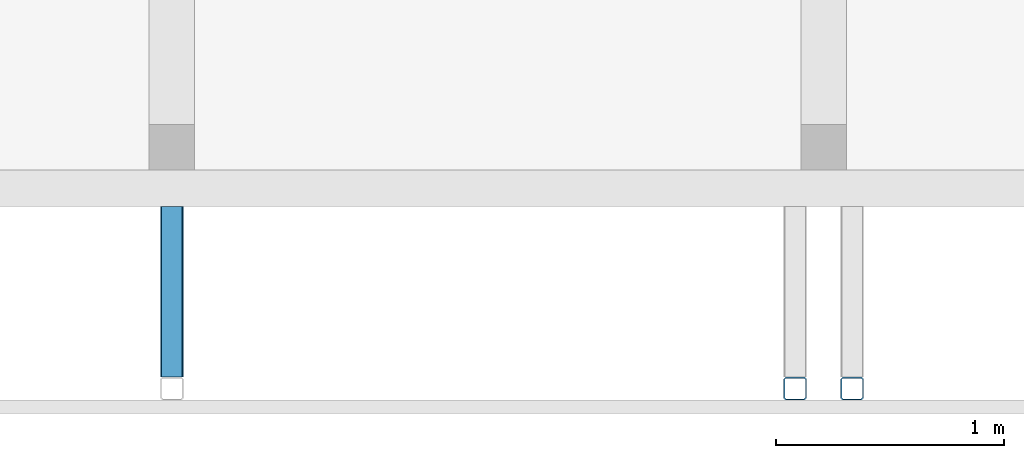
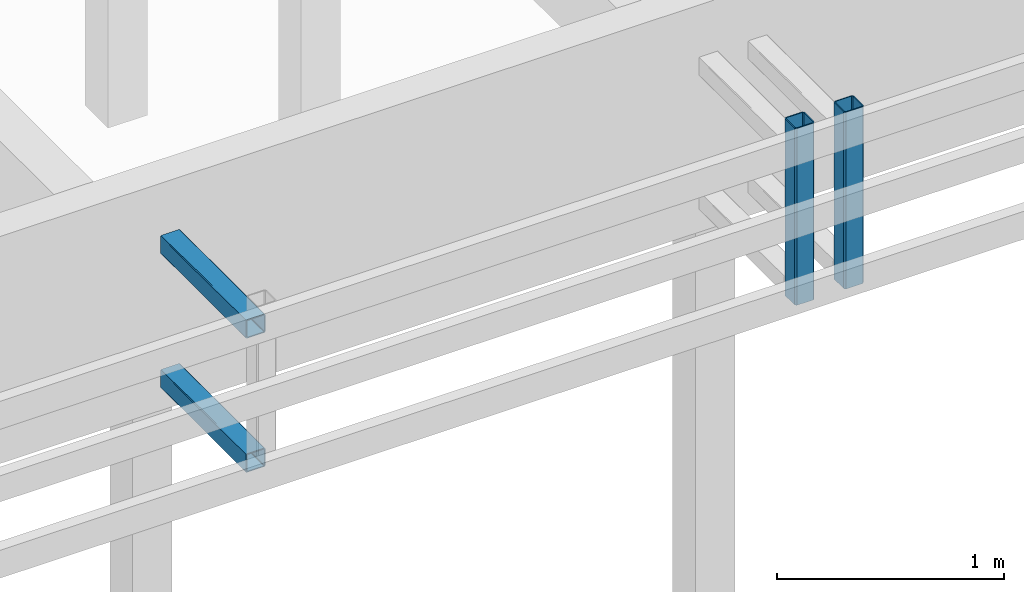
# One storey, part 6 of 44: 4 members.
"""IFC4 building model written with IfcOpenShell, lengths in metres."""

from ifc_helpers import new_model, entity, si_unit, converted_unit, derived_unit, frame, origin, place, context, subcontext, project, spatial, faceted_brep, material, element, save


model = new_model("IFC4")

# Units and contexts
model_context = context("Model", 3, precision=1e-05, world=origin())
plan_context = context("Plan", 2, precision=1e-05, world=origin())
body_context = subcontext(model_context, "Body", "Model", "MODEL_VIEW")
ifc_project = project(units=[si_unit("LENGTHUNIT", "METRE"), si_unit("AREAUNIT", "SQUARE_METRE"), si_unit("VOLUMEUNIT", "CUBIC_METRE"), si_unit("MASSUNIT", "GRAM", prefix="KILO"), converted_unit("PLANEANGLEUNIT", "DEGREE", entity("IfcPlaneAngleMeasure", 0.0174532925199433), si_unit("PLANEANGLEUNIT", "RADIAN"), dimensions=[0, 0, 0, 0, 0, 0, 0]), derived_unit("THERMALTRANSMITTANCEUNIT", [(si_unit("POWERUNIT", "WATT"), 1), (si_unit("THERMODYNAMICTEMPERATUREUNIT", "KELVIN"), -1), (si_unit("LENGTHUNIT", "METRE"), -2)]), derived_unit("VOLUMETRICFLOWRATEUNIT", [(si_unit("LENGTHUNIT", "METRE"), 3), (converted_unit("TIMEUNIT", "hour", entity("IfcTimeMeasure", 3600.0), si_unit("TIMEUNIT", "SECOND"), dimensions=[0, 0, 1, 0, 0, 0, 0]), -1), (si_unit("LENGTHUNIT", "METRE"), -1)])], contexts=[model_context, plan_context])

# Site, building, storey
site_placement = place(None, origin())
site = spatial("IfcSite", under=ifc_project, at=site_placement, Name="Site", CompositionType="ELEMENT")
building_placement = place(site_placement, origin())
building = spatial("IfcBuilding", under=site, at=building_placement, Name="Admin", CompositionType="ELEMENT")
storey_placement = place(building_placement, frame((0.0, 0.0, 3.25)))
storey = spatial("IfcBuildingStorey", under=building, at=storey_placement, Name="01-Etage1", CompositionType="ELEMENT", Elevation=3.25)

# Members
ifc_material_1 = material(Name="S235")
member_1_placement = place(storey_placement, frame((29.7448010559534, 11.0194493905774, 2.82)))
element("IfcMember", 1, at=member_1_placement, inside=storey, material=ifc_material_1, Name="Bandeau R+1", context=body_context, shape_type="Brep", body=[
    faceted_brep([(0.01, 0.095, 0.0), (0.01, 0.095, 0.95), (0.09, 0.095, 0.95), (0.09, 0.095, 0.0), (0.005, 0.09, 0.0), (0.005, 0.09, 0.95), (0.005, 0.01, 0.0), (0.005, 0.01, 0.95), (0.01, 0.005, 0.0), (0.01, 0.005, 0.95), (0.09, 0.005, 0.0), (0.09, 0.005, 0.95), (0.095, 0.01, 0.0), (0.095, 0.01, 0.95), (0.095, 0.09, 0.0), (0.095, 0.09, 0.95), (0.1, 0.0925, 0.0), (0.1, 0.0925, 0.95), (0.0925, 0.1, 0.95), (0.0925, 0.1, 0.0), (0.1, 0.0075, 0.0), (0.1, 0.0075, 0.95), (0.0925, 0.0, 0.0), (0.0925, 0.0, 0.95), (0.0075, 0.0, 0.0), (0.0075, 0.0, 0.95), (0.0, 0.0075, 0.0), (0.0, 0.0075, 0.95), (0.0, 0.0925, 0.0), (0.0, 0.0925, 0.95), (0.0075, 0.1, 0.0), (0.0075, 0.1, 0.95)], [[[0, 1, 2, 3]], [[4, 5, 1, 0]], [[6, 7, 5, 4]], [[8, 9, 7, 6]], [[10, 11, 9, 8]], [[12, 13, 11, 10]], [[14, 15, 13, 12]], [[3, 2, 15, 14]], [[16, 17, 18, 19]], [[20, 21, 17, 16]], [[22, 23, 21, 20]], [[24, 25, 23, 22]], [[26, 27, 25, 24]], [[28, 29, 27, 26]], [[30, 31, 29, 28]], [[19, 18, 31, 30]], [[18, 17, 21, 23, 25, 27, 29, 31], [2, 1, 5, 7, 9, 11, 13, 15]], [[19, 30, 28, 26, 24, 22, 20, 16], [3, 14, 12, 10, 8, 6, 4, 0]]], orient=[[False], [False], [False], [False], [False], [False], [False], [False], [False], [False], [False], [False], [False], [False], [False], [False], [False, False], [False, False]]),
])
ifc_material_2 = material(Name="S235")
member_2_placement = place(storey_placement, frame((29.4948010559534, 11.0194493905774, 2.82)))
element("IfcMember", 2, at=member_2_placement, inside=storey, material=ifc_material_2, Name="Bandeau R+1", context=body_context, shape_type="Brep", body=[
    faceted_brep([(0.01, 0.095, 0.0), (0.01, 0.095, 0.95), (0.09, 0.095, 0.95), (0.09, 0.095, 0.0), (0.005, 0.09, 0.0), (0.005, 0.09, 0.95), (0.005, 0.01, 0.0), (0.005, 0.01, 0.95), (0.01, 0.005, 0.0), (0.01, 0.005, 0.95), (0.09, 0.005, 0.0), (0.09, 0.005, 0.95), (0.095, 0.01, 0.0), (0.095, 0.01, 0.95), (0.095, 0.09, 0.0), (0.095, 0.09, 0.95), (0.1, 0.0925, 0.0), (0.1, 0.0925, 0.95), (0.0925, 0.1, 0.95), (0.0925, 0.1, 0.0), (0.1, 0.0075, 0.0), (0.1, 0.0075, 0.95), (0.0925, 0.0, 0.0), (0.0925, 0.0, 0.95), (0.0075, 0.0, 0.0), (0.0075, 0.0, 0.95), (0.0, 0.0075, 0.0), (0.0, 0.0075, 0.95), (0.0, 0.0925, 0.0), (0.0, 0.0925, 0.95), (0.0075, 0.1, 0.0), (0.0075, 0.1, 0.95)], [[[0, 1, 2, 3]], [[4, 5, 1, 0]], [[6, 7, 5, 4]], [[8, 9, 7, 6]], [[10, 11, 9, 8]], [[12, 13, 11, 10]], [[14, 15, 13, 12]], [[3, 2, 15, 14]], [[16, 17, 18, 19]], [[20, 21, 17, 16]], [[22, 23, 21, 20]], [[24, 25, 23, 22]], [[26, 27, 25, 24]], [[28, 29, 27, 26]], [[30, 31, 29, 28]], [[19, 18, 31, 30]], [[18, 17, 21, 23, 25, 27, 29, 31], [2, 1, 5, 7, 9, 11, 13, 15]], [[19, 30, 28, 26, 24, 22, 20, 16], [3, 14, 12, 10, 8, 6, 4, 0]]], orient=[[False], [False], [False], [False], [False], [False], [False], [False], [False], [False], [False], [False], [False], [False], [False], [False], [False, False], [False, False]]),
])
ifc_material_3 = material(Name="S235")
member_3_placement = place(storey_placement, frame((26.7598010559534, 11.1194493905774, 3.54)))
element("IfcMember", 3, at=member_3_placement, inside=storey, material=ifc_material_3, Name="Bandeau R+1", context=body_context, shape_type="Brep", body=[
    faceted_brep([(0.095, 0.0, 0.09), (0.095, 0.0, 0.01), (0.0950000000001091, 0.749999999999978, 0.01), (0.0950000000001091, 0.749999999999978, 0.09), (0.0949240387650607, 0.0, 0.0908682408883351), (0.0949240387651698, 0.749999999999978, 0.0908682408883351), (0.0946984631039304, 0.0, 0.0917101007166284), (0.0946984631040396, 0.749999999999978, 0.0917101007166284), (0.0943301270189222, 0.0, 0.0925), (0.0943301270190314, 0.749999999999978, 0.0925), (0.0938302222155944, 0.0, 0.0932139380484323), (0.0938302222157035, 0.749999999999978, 0.0932139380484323), (0.0932139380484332, 1.81898940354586e-15, 0.0938302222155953), (0.0932139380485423, 0.74999999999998, 0.0938302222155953), (0.0925, 1.81898940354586e-15, 0.0943301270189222), (0.0925000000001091, 0.74999999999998, 0.0943301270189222), (0.0917101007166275, 1.81898940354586e-15, 0.0946984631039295), (0.0917101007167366, 0.74999999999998, 0.0946984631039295), (0.090868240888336, 1.81898940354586e-15, 0.0949240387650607), (0.0908682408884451, 0.74999999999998, 0.0949240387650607), (0.09, 1.81898940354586e-15, 0.095), (0.0900000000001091, 0.74999999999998, 0.095), (0.01, 1.2732925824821e-14, 0.095), (0.0100000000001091, 0.749999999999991, 0.095), (0.009131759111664, 1.2732925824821e-14, 0.0949240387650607), (0.00913175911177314, 0.749999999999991, 0.0949240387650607), (0.00828989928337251, 1.2732925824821e-14, 0.0946984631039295), (0.00828989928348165, 0.749999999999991, 0.0946984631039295), (0.0075, 1.2732925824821e-14, 0.0943301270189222), (0.00750000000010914, 0.749999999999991, 0.0943301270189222), (0.00678606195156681, 1.2732925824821e-14, 0.0938302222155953), (0.00678606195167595, 0.749999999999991, 0.0938302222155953), (0.0061697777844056, 1.45519152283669e-14, 0.0932139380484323), (0.00616977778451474, 0.749999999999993, 0.0932139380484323), (0.00566987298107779, 1.45519152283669e-14, 0.0925), (0.00566987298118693, 0.749999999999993, 0.0925), (0.00530153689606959, 1.45519152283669e-14, 0.0917101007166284), (0.00530153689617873, 0.749999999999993, 0.0917101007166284), (0.00507596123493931, 1.45519152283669e-14, 0.0908682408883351), (0.00507596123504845, 0.749999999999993, 0.0908682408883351), (0.005, 1.45519152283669e-14, 0.09), (0.00500000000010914, 0.749999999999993, 0.09), (0.005, 1.45519152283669e-14, 0.01), (0.00500000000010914, 0.749999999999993, 0.01), (0.00507596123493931, 1.45519152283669e-14, 0.00913175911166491), (0.00507596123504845, 0.749999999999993, 0.00913175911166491), (0.00530153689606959, 1.45519152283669e-14, 0.0082898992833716), (0.00530153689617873, 0.749999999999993, 0.0082898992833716), (0.00566987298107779, 1.45519152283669e-14, 0.0075), (0.00566987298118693, 0.749999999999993, 0.0075), (0.0061697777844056, 1.45519152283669e-14, 0.00678606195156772), (0.00616977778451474, 0.749999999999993, 0.00678606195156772), (0.00678606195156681, 1.2732925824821e-14, 0.00616977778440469), (0.00678606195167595, 0.749999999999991, 0.00616977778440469), (0.0075, 1.2732925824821e-14, 0.00566987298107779), (0.00750000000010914, 0.749999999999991, 0.00566987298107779), (0.00828989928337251, 1.2732925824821e-14, 0.0053015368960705), (0.00828989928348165, 0.749999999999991, 0.0053015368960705), (0.009131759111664, 1.2732925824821e-14, 0.00507596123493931), (0.00913175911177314, 0.749999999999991, 0.00507596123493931), (0.01, 1.2732925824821e-14, 0.005), (0.0100000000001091, 0.749999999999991, 0.005), (0.09, 1.81898940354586e-15, 0.005), (0.0900000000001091, 0.74999999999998, 0.005), (0.090868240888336, 1.81898940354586e-15, 0.00507596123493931), (0.0908682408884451, 0.74999999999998, 0.00507596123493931), (0.0917101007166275, 1.81898940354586e-15, 0.0053015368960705), (0.0917101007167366, 0.74999999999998, 0.0053015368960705), (0.0925, 1.81898940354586e-15, 0.00566987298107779), (0.0925000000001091, 0.74999999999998, 0.00566987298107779), (0.0932139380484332, 1.81898940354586e-15, 0.00616977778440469), (0.0932139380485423, 0.74999999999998, 0.00616977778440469), (0.0938302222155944, 0.0, 0.00678606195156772), (0.0938302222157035, 0.749999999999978, 0.00678606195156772), (0.0943301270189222, 0.0, 0.0075), (0.0943301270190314, 0.749999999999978, 0.0075), (0.0946984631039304, 0.0, 0.0082898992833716), (0.0946984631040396, 0.749999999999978, 0.0082898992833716), (0.0949240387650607, 0.0, 0.00913175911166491), (0.0949240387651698, 0.749999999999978, 0.00913175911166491), (0.0075, 1.2732925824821e-14, 0.1), (0.00619763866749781, 1.45519152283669e-14, 0.0998860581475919), (0.00619763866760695, 0.749999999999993, 0.0998860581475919), (0.00750000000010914, 0.749999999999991, 0.1), (0.0925, 1.81898940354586e-15, 0.1), (0.0925000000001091, 0.74999999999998, 0.1), (0.0938023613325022, 0.0, 0.0998860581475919), (0.0938023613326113, 0.749999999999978, 0.0998860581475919), (0.0950651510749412, 0.0, 0.0995476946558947), (0.0950651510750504, 0.749999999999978, 0.0995476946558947), (0.09625, 0.0, 0.0989951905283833), (0.0962500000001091, 0.749999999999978, 0.0989951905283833), (0.097320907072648, 0.0, 0.0982453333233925), (0.0973209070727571, 0.749999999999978, 0.0982453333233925), (0.0982453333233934, 0.0, 0.0973209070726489), (0.0982453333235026, 0.749999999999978, 0.0973209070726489), (0.0989951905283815, 0.0, 0.09625), (0.0989951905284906, 0.749999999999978, 0.09625), (0.0995476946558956, 0.0, 0.0950651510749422), (0.0995476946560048, 0.749999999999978, 0.0950651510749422), (0.0998860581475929, 0.0, 0.0938023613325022), (0.099886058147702, 0.749999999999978, 0.0938023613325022), (0.1, 0.0, 0.0925), (0.100000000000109, 0.749999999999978, 0.0925), (0.0998860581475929, 0.0, 0.00619763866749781), (0.1, 0.0, 0.0075), (0.100000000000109, 0.749999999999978, 0.0075), (0.099886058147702, 0.749999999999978, 0.00619763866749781), (0.0995476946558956, 0.0, 0.00493484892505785), (0.0995476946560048, 0.749999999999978, 0.00493484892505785), (0.0989951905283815, 0.0, 0.00375), (0.0989951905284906, 0.749999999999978, 0.00375), (0.0982453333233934, 0.0, 0.00267909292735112), (0.0982453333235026, 0.749999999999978, 0.00267909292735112), (0.097320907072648, 0.0, 0.00175466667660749), (0.0973209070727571, 0.749999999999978, 0.00175466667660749), (0.09625, 0.0, 0.00100480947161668), (0.0962500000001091, 0.749999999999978, 0.00100480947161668), (0.0950651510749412, 0.0, 0.000452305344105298), (0.0950651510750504, 0.749999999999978, 0.000452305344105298), (0.0938023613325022, 0.0, 0.000113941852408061), (0.0938023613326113, 0.749999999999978, 0.000113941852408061), (0.0925, 1.81898940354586e-15, 0.0), (0.0925000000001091, 0.74999999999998, 0.0), (0.0075, 1.2732925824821e-14, 0.0), (0.00750000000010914, 0.749999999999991, 0.0), (0.00619763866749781, 1.45519152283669e-14, 0.000113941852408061), (0.00619763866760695, 0.749999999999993, 0.000113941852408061), (0.00493484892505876, 1.45519152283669e-14, 0.000452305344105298), (0.0049348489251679, 0.749999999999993, 0.000452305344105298), (0.00375, 1.45519152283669e-14, 0.00100480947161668), (0.00375000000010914, 0.749999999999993, 0.00100480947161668), (0.00267909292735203, 1.45519152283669e-14, 0.00175466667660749), (0.00267909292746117, 0.749999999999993, 0.00175466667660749), (0.00175466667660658, 1.45519152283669e-14, 0.00267909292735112), (0.00175466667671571, 0.749999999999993, 0.00267909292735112), (0.0010048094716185, 1.45519152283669e-14, 0.00375), (0.00100480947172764, 0.749999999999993, 0.00375), (0.000452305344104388, 1.45519152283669e-14, 0.00493484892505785), (0.000452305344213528, 0.749999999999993, 0.00493484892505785), (0.000113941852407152, 1.45519152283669e-14, 0.00619763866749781), (0.000113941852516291, 0.749999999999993, 0.00619763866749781), (0.0, 0.0, 0.0075), (1.09139364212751e-13, 0.749999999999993, 0.0075), (0.000113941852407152, 1.45519152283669e-14, 0.0938023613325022), (0.0, -1.81898940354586e-15, 0.0925), (1.09139364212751e-13, 0.749999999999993, 0.0925), (0.000113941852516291, 0.749999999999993, 0.0938023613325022), (0.000452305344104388, 1.45519152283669e-14, 0.0950651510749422), (0.000452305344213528, 0.749999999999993, 0.0950651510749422), (0.0010048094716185, 1.45519152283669e-14, 0.09625), (0.00100480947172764, 0.749999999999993, 0.09625), (0.00175466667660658, 1.45519152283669e-14, 0.0973209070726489), (0.00175466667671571, 0.749999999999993, 0.0973209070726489), (0.00267909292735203, 1.45519152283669e-14, 0.0982453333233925), (0.00267909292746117, 0.749999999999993, 0.0982453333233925), (0.00375, 1.45519152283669e-14, 0.0989951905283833), (0.00375000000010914, 0.749999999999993, 0.0989951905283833), (0.00493484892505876, 1.45519152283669e-14, 0.0995476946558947), (0.0049348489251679, 0.749999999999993, 0.0995476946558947)], [[[0, 1, 2, 3]], [[4, 0, 3, 5]], [[6, 4, 5, 7]], [[8, 6, 7, 9]], [[10, 8, 9, 11]], [[12, 10, 11, 13]], [[14, 12, 13, 15]], [[16, 14, 15, 17]], [[18, 16, 17, 19]], [[20, 18, 19, 21]], [[22, 20, 21, 23]], [[24, 22, 23, 25]], [[26, 24, 25, 27]], [[28, 26, 27, 29]], [[30, 28, 29, 31]], [[32, 30, 31, 33]], [[34, 32, 33, 35]], [[36, 34, 35, 37]], [[38, 36, 37, 39]], [[40, 38, 39, 41]], [[42, 40, 41, 43]], [[44, 42, 43, 45]], [[46, 44, 45, 47]], [[48, 46, 47, 49]], [[50, 48, 49, 51]], [[52, 50, 51, 53]], [[54, 52, 53, 55]], [[56, 54, 55, 57]], [[58, 56, 57, 59]], [[60, 58, 59, 61]], [[62, 60, 61, 63]], [[64, 62, 63, 65]], [[66, 64, 65, 67]], [[68, 66, 67, 69]], [[70, 68, 69, 71]], [[72, 70, 71, 73]], [[74, 72, 73, 75]], [[76, 74, 75, 77]], [[78, 76, 77, 79]], [[1, 78, 79, 2]], [[80, 81, 82, 83]], [[84, 80, 83, 85]], [[86, 84, 85, 87]], [[88, 86, 87, 89]], [[90, 88, 89, 91]], [[92, 90, 91, 93]], [[94, 92, 93, 95]], [[96, 94, 95, 97]], [[98, 96, 97, 99]], [[100, 98, 99, 101]], [[102, 100, 101, 103]], [[104, 105, 106, 107]], [[108, 104, 107, 109]], [[110, 108, 109, 111]], [[112, 110, 111, 113]], [[114, 112, 113, 115]], [[116, 114, 115, 117]], [[118, 116, 117, 119]], [[120, 118, 119, 121]], [[122, 120, 121, 123]], [[124, 122, 123, 125]], [[126, 124, 125, 127]], [[128, 126, 127, 129]], [[130, 128, 129, 131]], [[132, 130, 131, 133]], [[134, 132, 133, 135]], [[136, 134, 135, 137]], [[138, 136, 137, 139]], [[140, 138, 139, 141]], [[142, 140, 141, 143]], [[144, 145, 146, 147]], [[148, 144, 147, 149]], [[150, 148, 149, 151]], [[152, 150, 151, 153]], [[154, 152, 153, 155]], [[156, 154, 155, 157]], [[158, 156, 157, 159]], [[81, 158, 159, 82]], [[146, 143, 141, 139, 137, 135, 133, 131, 129, 127, 125, 123, 121, 119, 117, 115, 113, 111, 109, 107, 106, 103, 101, 99, 97, 95, 93, 91, 89, 87, 85, 83, 82, 159, 157, 155, 153, 151, 149, 147], [2, 79, 77, 75, 73, 71, 69, 67, 65, 63, 61, 59, 57, 55, 53, 51, 49, 47, 45, 43, 41, 39, 37, 35, 33, 31, 29, 27, 25, 23, 21, 19, 17, 15, 13, 11, 9, 7, 5, 3]], [[103, 106, 105, 102]], [[102, 105, 104, 108, 110, 112, 114, 116, 118, 120, 122, 124, 126, 128, 130, 132, 134, 136, 138, 140, 142, 145, 144, 148, 150, 152, 154, 156, 158, 81, 80, 84, 86, 88, 90, 92, 94, 96, 98, 100], [1, 0, 4, 6, 8, 10, 12, 14, 16, 18, 20, 22, 24, 26, 28, 30, 32, 34, 36, 38, 40, 42, 44, 46, 48, 50, 52, 54, 56, 58, 60, 62, 64, 66, 68, 70, 72, 74, 76, 78]], [[145, 142, 143, 146]]], orient=[[False], [False], [False], [False], [False], [False], [False], [False], [False], [False], [False], [False], [False], [False], [False], [False], [False], [False], [False], [False], [False], [False], [False], [False], [False], [False], [False], [False], [False], [False], [False], [False], [False], [False], [False], [False], [False], [False], [False], [False], [False], [False], [False], [False], [False], [False], [False], [False], [False], [False], [False], [False], [False], [False], [False], [False], [False], [False], [False], [False], [False], [False], [False], [False], [False], [False], [False], [False], [False], [False], [False], [False], [False], [False], [False], [False], [False], [False], [False, False], [False], [False, False], [False]]),
])
ifc_material_4 = material(Name="S235")
member_4_placement = place(storey_placement, frame((26.7598010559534, 11.1194493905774, 2.82)))
element("IfcMember", 4, at=member_4_placement, inside=storey, material=ifc_material_4, Name="Bandeau R+1", context=body_context, shape_type="Brep", body=[
    faceted_brep([(0.095, 0.0, 0.09), (0.095, 0.0, 0.01), (0.0950000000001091, 0.749999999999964, 0.01), (0.0950000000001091, 0.749999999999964, 0.09), (0.0949240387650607, 0.0, 0.0908682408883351), (0.0949240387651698, 0.749999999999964, 0.0908682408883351), (0.0946984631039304, 0.0, 0.0917101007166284), (0.0946984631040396, 0.749999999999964, 0.0917101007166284), (0.0943301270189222, 0.0, 0.0925), (0.0943301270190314, 0.749999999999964, 0.0925), (0.0938302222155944, 0.0, 0.0932139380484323), (0.0938302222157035, 0.749999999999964, 0.0932139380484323), (0.0932139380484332, 1.81898940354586e-15, 0.0938302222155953), (0.0932139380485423, 0.749999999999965, 0.0938302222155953), (0.0925, 1.81898940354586e-15, 0.0943301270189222), (0.0925000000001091, 0.749999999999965, 0.0943301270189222), (0.0917101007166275, 1.81898940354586e-15, 0.0946984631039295), (0.0917101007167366, 0.749999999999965, 0.0946984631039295), (0.090868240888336, 1.81898940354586e-15, 0.0949240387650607), (0.0908682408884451, 0.749999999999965, 0.0949240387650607), (0.09, 1.81898940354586e-15, 0.095), (0.0900000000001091, 0.749999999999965, 0.095), (0.01, 1.2732925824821e-14, 0.095), (0.0100000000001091, 0.749999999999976, 0.095), (0.009131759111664, 1.2732925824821e-14, 0.0949240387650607), (0.00913175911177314, 0.749999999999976, 0.0949240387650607), (0.00828989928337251, 1.2732925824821e-14, 0.0946984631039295), (0.00828989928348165, 0.749999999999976, 0.0946984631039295), (0.0075, 1.2732925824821e-14, 0.0943301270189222), (0.00750000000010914, 0.749999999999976, 0.0943301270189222), (0.00678606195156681, 1.2732925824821e-14, 0.0938302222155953), (0.00678606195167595, 0.749999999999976, 0.0938302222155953), (0.0061697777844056, 1.45519152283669e-14, 0.0932139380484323), (0.00616977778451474, 0.749999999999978, 0.0932139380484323), (0.00566987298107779, 1.45519152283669e-14, 0.0925), (0.00566987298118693, 0.749999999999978, 0.0925), (0.00530153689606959, 1.45519152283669e-14, 0.0917101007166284), (0.00530153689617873, 0.749999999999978, 0.0917101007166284), (0.00507596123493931, 1.45519152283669e-14, 0.0908682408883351), (0.00507596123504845, 0.749999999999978, 0.0908682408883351), (0.005, 1.45519152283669e-14, 0.09), (0.00500000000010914, 0.749999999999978, 0.09), (0.005, 1.45519152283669e-14, 0.01), (0.00500000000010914, 0.749999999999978, 0.01), (0.00507596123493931, 1.45519152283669e-14, 0.00913175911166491), (0.00507596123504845, 0.749999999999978, 0.00913175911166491), (0.00530153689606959, 1.45519152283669e-14, 0.0082898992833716), (0.00530153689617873, 0.749999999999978, 0.0082898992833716), (0.00566987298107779, 1.45519152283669e-14, 0.0075), (0.00566987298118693, 0.749999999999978, 0.0075), (0.0061697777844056, 1.45519152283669e-14, 0.00678606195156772), (0.00616977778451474, 0.749999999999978, 0.00678606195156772), (0.00678606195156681, 1.2732925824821e-14, 0.00616977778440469), (0.00678606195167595, 0.749999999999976, 0.00616977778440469), (0.0075, 1.2732925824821e-14, 0.00566987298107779), (0.00750000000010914, 0.749999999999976, 0.00566987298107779), (0.00828989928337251, 1.2732925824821e-14, 0.0053015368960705), (0.00828989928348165, 0.749999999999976, 0.0053015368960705), (0.009131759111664, 1.2732925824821e-14, 0.00507596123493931), (0.00913175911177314, 0.749999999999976, 0.00507596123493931), (0.01, 1.2732925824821e-14, 0.005), (0.0100000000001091, 0.749999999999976, 0.005), (0.09, 1.81898940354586e-15, 0.005), (0.0900000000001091, 0.749999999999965, 0.005), (0.090868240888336, 1.81898940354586e-15, 0.00507596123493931), (0.0908682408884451, 0.749999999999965, 0.00507596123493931), (0.0917101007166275, 1.81898940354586e-15, 0.0053015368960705), (0.0917101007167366, 0.749999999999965, 0.0053015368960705), (0.0925, 1.81898940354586e-15, 0.00566987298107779), (0.0925000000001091, 0.749999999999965, 0.00566987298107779), (0.0932139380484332, 1.81898940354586e-15, 0.00616977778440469), (0.0932139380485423, 0.749999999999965, 0.00616977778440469), (0.0938302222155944, 0.0, 0.00678606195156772), (0.0938302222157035, 0.749999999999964, 0.00678606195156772), (0.0943301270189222, 0.0, 0.0075), (0.0943301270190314, 0.749999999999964, 0.0075), (0.0946984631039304, 0.0, 0.0082898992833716), (0.0946984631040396, 0.749999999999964, 0.0082898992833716), (0.0949240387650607, 0.0, 0.00913175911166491), (0.0949240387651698, 0.749999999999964, 0.00913175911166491), (0.0075, 1.2732925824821e-14, 0.1), (0.00619763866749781, 1.45519152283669e-14, 0.0998860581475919), (0.00619763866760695, 0.749999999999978, 0.0998860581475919), (0.00750000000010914, 0.749999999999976, 0.1), (0.0925, 1.81898940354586e-15, 0.1), (0.0925000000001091, 0.749999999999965, 0.1), (0.0938023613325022, 0.0, 0.0998860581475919), (0.0938023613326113, 0.749999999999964, 0.0998860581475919), (0.0950651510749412, 0.0, 0.0995476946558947), (0.0950651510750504, 0.749999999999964, 0.0995476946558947), (0.09625, 0.0, 0.0989951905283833), (0.0962500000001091, 0.749999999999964, 0.0989951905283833), (0.097320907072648, 0.0, 0.0982453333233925), (0.0973209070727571, 0.749999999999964, 0.0982453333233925), (0.0982453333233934, 0.0, 0.0973209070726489), (0.0982453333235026, 0.749999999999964, 0.0973209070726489), (0.0989951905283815, 0.0, 0.09625), (0.0989951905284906, 0.749999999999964, 0.09625), (0.0995476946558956, 0.0, 0.0950651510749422), (0.0995476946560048, 0.749999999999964, 0.0950651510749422), (0.0998860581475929, 0.0, 0.0938023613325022), (0.099886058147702, 0.749999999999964, 0.0938023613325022), (0.1, 0.0, 0.0925), (0.100000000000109, 0.749999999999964, 0.0925), (0.0998860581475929, 0.0, 0.00619763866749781), (0.1, 0.0, 0.0075), (0.100000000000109, 0.749999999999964, 0.0075), (0.099886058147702, 0.749999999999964, 0.00619763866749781), (0.0995476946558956, 0.0, 0.00493484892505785), (0.0995476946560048, 0.749999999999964, 0.00493484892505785), (0.0989951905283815, 0.0, 0.00375), (0.0989951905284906, 0.749999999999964, 0.00375), (0.0982453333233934, 0.0, 0.00267909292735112), (0.0982453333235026, 0.749999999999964, 0.00267909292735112), (0.097320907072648, 0.0, 0.00175466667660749), (0.0973209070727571, 0.749999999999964, 0.00175466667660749), (0.09625, 0.0, 0.00100480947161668), (0.0962500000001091, 0.749999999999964, 0.00100480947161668), (0.0950651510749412, 0.0, 0.000452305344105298), (0.0950651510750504, 0.749999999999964, 0.000452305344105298), (0.0938023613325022, 0.0, 0.000113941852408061), (0.0938023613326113, 0.749999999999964, 0.000113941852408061), (0.0925, 1.81898940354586e-15, 0.0), (0.0925000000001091, 0.749999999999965, 0.0), (0.0075, 1.2732925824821e-14, 0.0), (0.00750000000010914, 0.749999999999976, 0.0), (0.00619763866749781, 1.45519152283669e-14, 0.000113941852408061), (0.00619763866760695, 0.749999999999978, 0.000113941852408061), (0.00493484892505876, 1.45519152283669e-14, 0.000452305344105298), (0.0049348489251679, 0.749999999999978, 0.000452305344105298), (0.00375, 1.45519152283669e-14, 0.00100480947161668), (0.00375000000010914, 0.749999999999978, 0.00100480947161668), (0.00267909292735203, 1.45519152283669e-14, 0.00175466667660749), (0.00267909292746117, 0.749999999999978, 0.00175466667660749), (0.00175466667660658, 1.45519152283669e-14, 0.00267909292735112), (0.00175466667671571, 0.749999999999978, 0.00267909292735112), (0.0010048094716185, 1.45519152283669e-14, 0.00375), (0.00100480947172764, 0.749999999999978, 0.00375), (0.000452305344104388, 1.45519152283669e-14, 0.00493484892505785), (0.000452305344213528, 0.749999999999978, 0.00493484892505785), (0.000113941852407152, 1.45519152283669e-14, 0.00619763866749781), (0.000113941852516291, 0.749999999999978, 0.00619763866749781), (0.0, 0.0, 0.0075), (1.09139364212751e-13, 0.749999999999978, 0.0075), (0.000113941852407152, 1.45519152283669e-14, 0.0938023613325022), (0.0, 0.0, 0.0925), (1.09139364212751e-13, 0.749999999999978, 0.0925), (0.000113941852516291, 0.749999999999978, 0.0938023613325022), (0.000452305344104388, 1.45519152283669e-14, 0.0950651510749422), (0.000452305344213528, 0.749999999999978, 0.0950651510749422), (0.0010048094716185, 1.45519152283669e-14, 0.09625), (0.00100480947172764, 0.749999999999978, 0.09625), (0.00175466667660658, 1.45519152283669e-14, 0.0973209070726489), (0.00175466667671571, 0.749999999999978, 0.0973209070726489), (0.00267909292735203, 1.45519152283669e-14, 0.0982453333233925), (0.00267909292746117, 0.749999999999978, 0.0982453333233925), (0.00375, 1.45519152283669e-14, 0.0989951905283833), (0.00375000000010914, 0.749999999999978, 0.0989951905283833), (0.00493484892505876, 1.45519152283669e-14, 0.0995476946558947), (0.0049348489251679, 0.749999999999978, 0.0995476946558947)], [[[0, 1, 2, 3]], [[4, 0, 3, 5]], [[6, 4, 5, 7]], [[8, 6, 7, 9]], [[10, 8, 9, 11]], [[12, 10, 11, 13]], [[14, 12, 13, 15]], [[16, 14, 15, 17]], [[18, 16, 17, 19]], [[20, 18, 19, 21]], [[22, 20, 21, 23]], [[24, 22, 23, 25]], [[26, 24, 25, 27]], [[28, 26, 27, 29]], [[30, 28, 29, 31]], [[32, 30, 31, 33]], [[34, 32, 33, 35]], [[36, 34, 35, 37]], [[38, 36, 37, 39]], [[40, 38, 39, 41]], [[42, 40, 41, 43]], [[44, 42, 43, 45]], [[46, 44, 45, 47]], [[48, 46, 47, 49]], [[50, 48, 49, 51]], [[52, 50, 51, 53]], [[54, 52, 53, 55]], [[56, 54, 55, 57]], [[58, 56, 57, 59]], [[60, 58, 59, 61]], [[62, 60, 61, 63]], [[64, 62, 63, 65]], [[66, 64, 65, 67]], [[68, 66, 67, 69]], [[70, 68, 69, 71]], [[72, 70, 71, 73]], [[74, 72, 73, 75]], [[76, 74, 75, 77]], [[78, 76, 77, 79]], [[1, 78, 79, 2]], [[80, 81, 82, 83]], [[84, 80, 83, 85]], [[86, 84, 85, 87]], [[88, 86, 87, 89]], [[90, 88, 89, 91]], [[92, 90, 91, 93]], [[94, 92, 93, 95]], [[96, 94, 95, 97]], [[98, 96, 97, 99]], [[100, 98, 99, 101]], [[102, 100, 101, 103]], [[104, 105, 106, 107]], [[108, 104, 107, 109]], [[110, 108, 109, 111]], [[112, 110, 111, 113]], [[114, 112, 113, 115]], [[116, 114, 115, 117]], [[118, 116, 117, 119]], [[120, 118, 119, 121]], [[122, 120, 121, 123]], [[124, 122, 123, 125]], [[126, 124, 125, 127]], [[128, 126, 127, 129]], [[130, 128, 129, 131]], [[132, 130, 131, 133]], [[134, 132, 133, 135]], [[136, 134, 135, 137]], [[138, 136, 137, 139]], [[140, 138, 139, 141]], [[142, 140, 141, 143]], [[144, 145, 146, 147]], [[148, 144, 147, 149]], [[150, 148, 149, 151]], [[152, 150, 151, 153]], [[154, 152, 153, 155]], [[156, 154, 155, 157]], [[158, 156, 157, 159]], [[81, 158, 159, 82]], [[146, 143, 141, 139, 137, 135, 133, 131, 129, 127, 125, 123, 121, 119, 117, 115, 113, 111, 109, 107, 106, 103, 101, 99, 97, 95, 93, 91, 89, 87, 85, 83, 82, 159, 157, 155, 153, 151, 149, 147], [2, 79, 77, 75, 73, 71, 69, 67, 65, 63, 61, 59, 57, 55, 53, 51, 49, 47, 45, 43, 41, 39, 37, 35, 33, 31, 29, 27, 25, 23, 21, 19, 17, 15, 13, 11, 9, 7, 5, 3]], [[103, 106, 105, 102]], [[102, 105, 104, 108, 110, 112, 114, 116, 118, 120, 122, 124, 126, 128, 130, 132, 134, 136, 138, 140, 142, 145, 144, 148, 150, 152, 154, 156, 158, 81, 80, 84, 86, 88, 90, 92, 94, 96, 98, 100], [1, 0, 4, 6, 8, 10, 12, 14, 16, 18, 20, 22, 24, 26, 28, 30, 32, 34, 36, 38, 40, 42, 44, 46, 48, 50, 52, 54, 56, 58, 60, 62, 64, 66, 68, 70, 72, 74, 76, 78]], [[145, 142, 143, 146]]], orient=[[False], [False], [False], [False], [False], [False], [False], [False], [False], [False], [False], [False], [False], [False], [False], [False], [False], [False], [False], [False], [False], [False], [False], [False], [False], [False], [False], [False], [False], [False], [False], [False], [False], [False], [False], [False], [False], [False], [False], [False], [False], [False], [False], [False], [False], [False], [False], [False], [False], [False], [False], [False], [False], [False], [False], [False], [False], [False], [False], [False], [False], [False], [False], [False], [False], [False], [False], [False], [False], [False], [False], [False], [False], [False], [False], [False], [False], [False], [False, False], [False], [False, False], [False]]),
])

save(model, "model.ifc")
